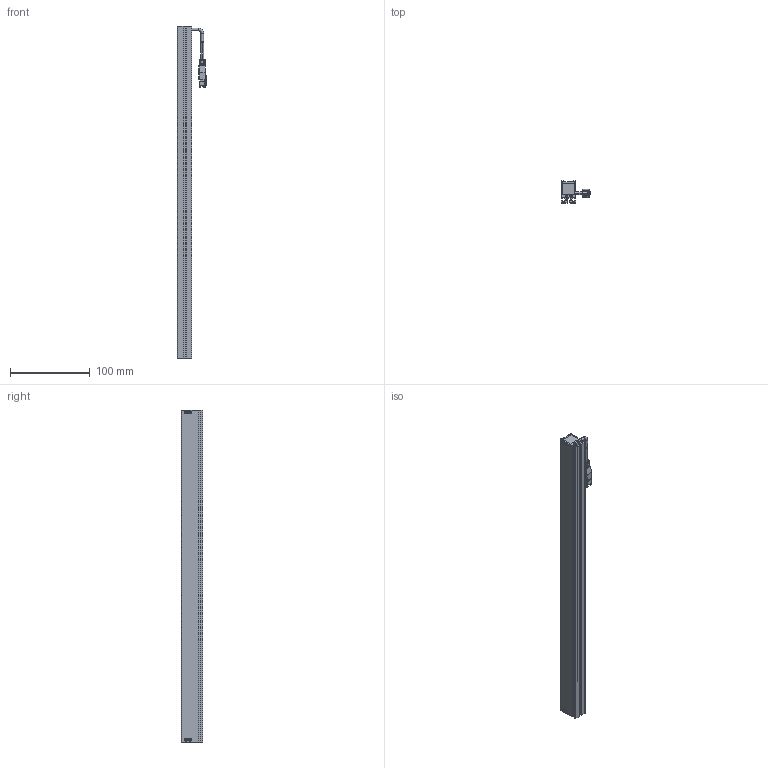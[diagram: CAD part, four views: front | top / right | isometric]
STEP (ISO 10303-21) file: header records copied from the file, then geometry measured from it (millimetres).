
FILE_DESCRIPTION (( 'STEP AP203' ), '1' );
FILE_NAME ('CST-2BS41718-¼òÒ×3DÍ¼.STEP', '2021-06-15T09:21:49', ( '' ), ( '' ), 'SwSTEP 2.0', 'SolidWorks 2018', '' );
FILE_SCHEMA (( 'CONFIG_CONTROL_DESIGN' ));
Length unit declared in the file: millimetre
Products named in the file (1): CST-2BS41718-潠眢3D芞
Bounding box: 36.55 x 27 x 417 mm (x, y, z)
Surface area: 112699.1 mm2 (no closed solid volume)
Topology: 0 solids, 15 shells, 526 faces, 1401 edges, 888 vertices
Faces by surface type: plane 285, cylinder 155, cone 52, bspline 28, torus 6
Entity records: 16861 total; most frequent: CARTESIAN_POINT 3856, ORIENTED_EDGE 2715, DIRECTION 2639, EDGE_CURVE 1381, LINE 937, VECTOR 937, VERTEX_POINT 888, AXIS2_PLACEMENT_3D 851
